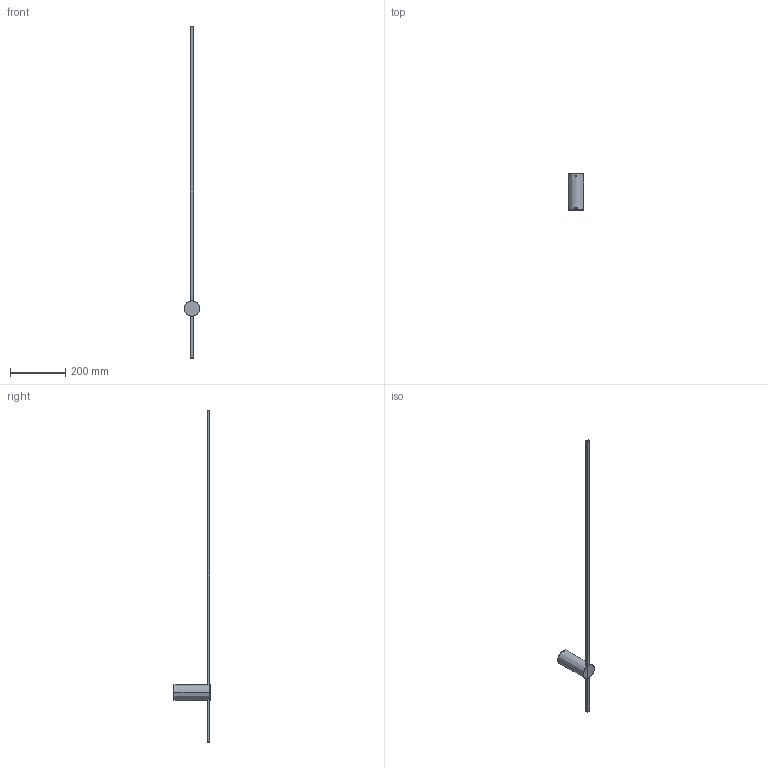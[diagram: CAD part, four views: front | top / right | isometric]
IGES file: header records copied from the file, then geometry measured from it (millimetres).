
Start section: SolidWorks IGES file using analytic representation for surfaces
Global section: file name: C:\Users\anna.bielnik\Desktop\SABER-LED-L-11588-11590\SABER-LED-L\SABER LED L pm.IGS; native system: SolidWorks 2023; preprocessor: SolidWorks 2023; author: anna.bielnik; date: 241011.101614; units: millimetre
Bounding box: 55 x 132 x 1204 mm (x, y, z)
Surface area: 128587.5 mm2 (no closed solid volume)
Topology: 0 solids, 0 shells, 74 faces, 728 edges, 724 vertices
Faces by surface type: bspline 56, revolution 18
